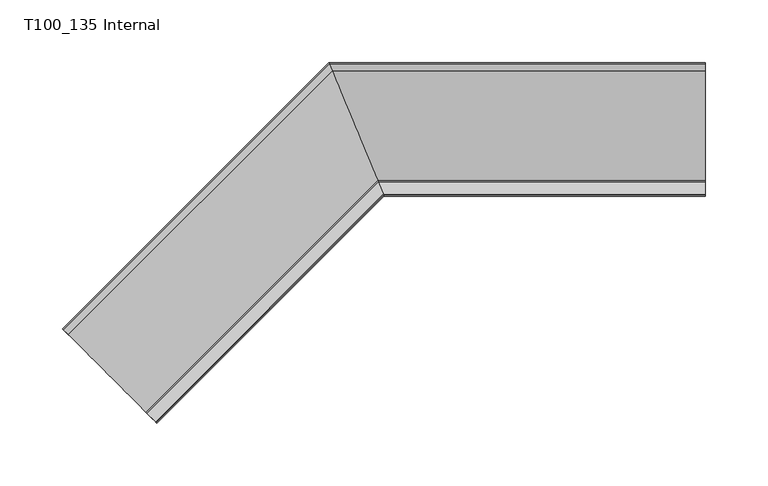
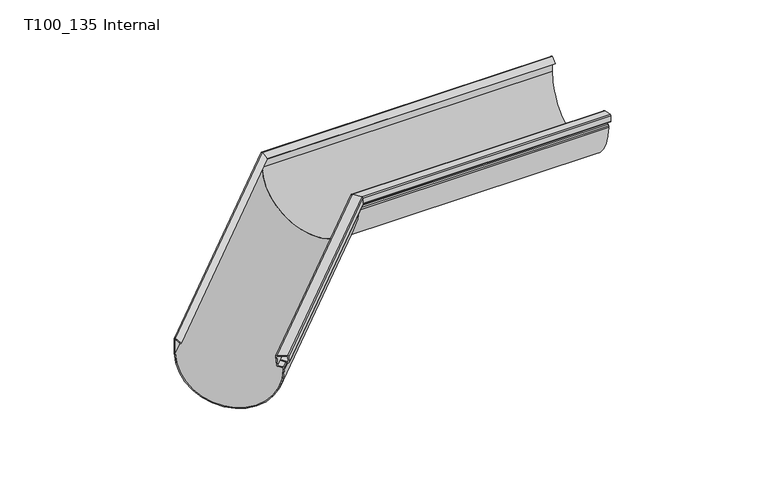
"""IFC4 building model written with IfcOpenShell, lengths in millimetres: proxy geometry, GROVIK_Gutter_Corner : T100_135 Internal."""

from ifc_helpers import new_model, si_unit, frame, origin, place, context, project, spatial, polyline, circle_curve, ellipse_curve, source, transform, mapped, element, save
from ifc_brep_helpers import plane_surface, cylinder_surface, revolved_surface, advanced_brep


def t100_135_internal_282c1e1c(model_context):
    return source(origin(), model_context, "Body", "AdvancedBrep", [
        advanced_brep(
        [(-144.4770669, -279.7870018, -12.9222473), (-145.0827086, -279.1813601, -3.1323306), (-138.0401854, -286.2238834, -1.3761787), (-137.6738294, -286.5902393, -7.2981526), (-142.5942318, -281.669837, -6.0711814), (-142.7047408, -281.5593279, -6.9575084), (-137.8750904, -286.3889784, -8.1618494), (-137.0478865, -287.2161822, -7.0898859), (-137.3989697, -286.865099, -1.4147892), (-138.1650142, -286.0990545, -0.5057502), (-145.1286566, -279.1354121, -2.242232), (-145.7102848, -278.5537839, -3.3141955), (-145.1162126, -279.1478561, -12.9170968), (-144.473425, -279.7906438, -13.8261357), (-140.7849601, -283.4791086, -14.2825008), (-140.7849601, -283.4791086, -16.3578028), (-211.4956383, -212.7684305, -16.3578028), (-211.4956383, -212.7684305, -1.3578028), (-208.1372519, -216.1268168, -5.3430859), (-207.7281844, -216.5358844, -4.6536459), (-211.5512212, -212.7128475, -0.1169778), (-212.1320344, -212.1320344, -0.5), (-212.1320344, -212.1320344, -16.3578028), (-140.148564, -284.1155047, -16.3578028), (-140.148564, -284.1155047, -14.3741339), (-140.7940424, -283.4700263, -13.3779392), (41.8474068, -100.8285771, -13.3779392), (39.689941, -95.6199939, -12.9222473), (42.2255193, -101.7414214, -14.3741339), (42.2255193, -101.7414214, -16.3578028), (0.0585786, 0.0585786, -16.3578028), (0.0585786, 0.0585786, -0.5), (0.3988111, -0.7628152, -0.1169778), (2.6382942, -6.1694058, -4.6536459), (2.398668, -5.5908969, -5.3430859), (0.4313708, -0.8414214, -1.3578028), (0.4313708, -0.8414214, -16.3578028), (41.8527271, -100.8414214, -16.3578028), (41.8527271, -100.8414214, -14.2825008), (39.6920744, -95.6251444, -13.8261357), (39.3155382, -94.7161054, -12.9170968), (38.9675387, -93.8759604, -3.3141955), (39.3082486, -94.6985069, -2.242232), (43.3874559, -104.5465845, -0.5057502), (43.8361943, -105.6299349, -1.4147892), (44.0418541, -106.1264415, -7.0898859), (43.5572893, -104.9565987, -8.1618494), (40.7281456, -98.1264415, -6.9575084), (40.7928803, -98.2827249, -6.0711814), (43.6751853, -105.2412247, -7.2981526), (43.4605789, -104.7231191, -1.3761787), (39.3351643, -94.7634872, -3.1323306)],
        [
            (0, 1),
            (1, 2),
            (2, 3),
            (3, 4),
            (4, 5),
            (5, 6),
            (6, 7, circle_curve(frame((-137.7523026, -286.5117662, -7.1770416), z_axis=(-0.7071067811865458, -0.7071067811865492, 0.0), x_axis=(-0.7071067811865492, 0.7071067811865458, 0.0)), 1.0)),
            (7, 8),
            (8, 9, circle_curve(frame((-138.1033858, -286.160683, -1.5019449), z_axis=(-0.7071067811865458, -0.7071067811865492, 0.0), x_axis=(-0.7071067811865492, 0.7071067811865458, 0.0)), 1.0)),
            (9, 10),
            (10, 11, circle_curve(frame((-145.0058688, -279.2581999, -3.2270397), z_axis=(-0.7071067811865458, -0.7071067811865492, 0.0), x_axis=(-0.7071067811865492, 0.7071067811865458, 0.0)), 1.0)),
            (11, 12),
            (12, 13, circle_curve(frame((-144.473425, -279.7906438, -12.9170968), z_axis=(-0.7071067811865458, -0.7071067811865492, 0.0), x_axis=(-0.7071067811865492, 0.7071067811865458, 0.0)), 0.909039)),
            (13, 14),
            (14, 15),
            (15, 16, circle_curve(frame((-176.1402992, -248.1237695, -16.3578028), z_axis=(0.7071067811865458, 0.7071067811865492, 0.0), x_axis=(-0.7071067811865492, 0.7071067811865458, 0.0)), 50.0)),
            (16, 17),
            (17, 18),
            (18, 19),
            (19, 20),
            (20, 21, circle_curve(frame((-211.778481, -212.4855877, -0.5), z_axis=(-0.7071067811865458, -0.7071067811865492, 0.0), x_axis=(-0.7071067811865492, 0.7071067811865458, 0.0)), 0.5)),
            (21, 22),
            (22, 23, circle_curve(frame((-176.1402992, -248.1237695, -16.3578028), z_axis=(-0.7071067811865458, -0.7071067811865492, 0.0), x_axis=(-0.7071067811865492, 0.7071067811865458, 0.0)), 50.9)),
            (23, 24),
            (24, 25, circle_curve(frame((-140.8556708, -283.4083979, -14.3741339), z_axis=(-0.7071067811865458, -0.7071067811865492, 0.0), x_axis=(-0.7071067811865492, 0.7071067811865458, 0.0)), 1.0)),
            (25, 0),
            (25, 26),
            (26, 27),
            (27, 0),
            (24, 28),
            (28, 26, ellipse_curve(frame((41.8113057, -100.7414214, -14.3741339), z_axis=(-0.9238795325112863, -0.3826834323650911, 0.0), x_axis=(0.38268343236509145, -0.923879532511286, 0.0)), 1.0823922, 1.0)),
            (23, 29),
            (29, 28),
            (22, 30),
            (30, 29, ellipse_curve(frame((21.142049, -50.8414214, -16.3578028), z_axis=(-0.9238795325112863, -0.3826834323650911, 0.0), x_axis=(0.38268343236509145, -0.923879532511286, 0.0)), 55.093763, 50.9)),
            (21, 31),
            (31, 30),
            (20, 32),
            (32, 31, ellipse_curve(frame((0.2656854, -0.4414214, -0.5), z_axis=(-0.9238795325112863, -0.3826834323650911, 0.0), x_axis=(0.38268343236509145, -0.923879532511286, 0.0)), 0.5411961, 0.5)),
            (19, 33),
            (33, 32),
            (18, 34),
            (34, 33),
            (17, 35),
            (35, 34),
            (16, 36),
            (36, 35),
            (15, 37),
            (37, 36, ellipse_curve(frame((21.142049, -50.8414214, -16.3578028), z_axis=(0.9238795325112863, 0.3826834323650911, 0.0), x_axis=(-0.38268343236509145, 0.923879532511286, 0.0)), 54.11961, 50.0)),
            (14, 38),
            (38, 37),
            (13, 39),
            (39, 38),
            (12, 40),
            (40, 39, ellipse_curve(frame((39.6920744, -95.6251444, -12.9170968), z_axis=(-0.9238795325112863, -0.3826834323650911, 0.0), x_axis=(0.38268343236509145, -0.923879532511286, 0.0)), 0.9839367, 0.909039)),
            (11, 41),
            (41, 40),
            (10, 42),
            (42, 41, ellipse_curve(frame((39.3801761, -94.8721551, -3.2270397), z_axis=(-0.9238795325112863, -0.3826834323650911, 0.0), x_axis=(0.38268343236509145, -0.923879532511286, 0.0)), 1.0823922, 1.0)),
            (9, 43),
            (43, 42),
            (8, 44),
            (44, 43, ellipse_curve(frame((43.423557, -104.6337402, -1.5019449), z_axis=(-0.9238795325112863, -0.3826834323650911, 0.0), x_axis=(0.38268343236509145, -0.923879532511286, 0.0)), 1.0823922, 1.0)),
            (7, 45),
            (45, 44),
            (6, 46),
            (46, 45, ellipse_curve(frame((43.6292168, -105.1302468, -7.1770416), z_axis=(-0.9238795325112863, -0.3826834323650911, 0.0), x_axis=(0.38268343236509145, -0.923879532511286, 0.0)), 1.0823922, 1.0)),
            (5, 47),
            (47, 46),
            (4, 48),
            (48, 47),
            (3, 49),
            (49, 48),
            (2, 50),
            (50, 49),
            (1, 51),
            (51, 50),
            (27, 51),
        ],
        [
            plane_surface(frame((-212.1320344, -212.1320344, 0.0), z_axis=(-0.7071067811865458, -0.7071067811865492, 0.0), x_axis=(0.0, 0.0, 1.0))),
            plane_surface(frame((-144.4770669, -279.7870018, -12.9222473), z_axis=(0.06162841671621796, -0.06162841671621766, 0.9961946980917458), x_axis=(0.7071067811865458, 0.7071067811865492, 0.0))),
            cylinder_surface(frame((-140.8556708, -283.4083979, -14.3741339), z_axis=(-0.7071067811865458, -0.7071067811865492, 0.0), x_axis=(-0.7071067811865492, 0.7071067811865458, 0.0)), 1.0),
            plane_surface(frame((-140.148564, -284.1155047, -14.3741339), z_axis=(0.7071067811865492, -0.7071067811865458, 0.0), x_axis=(0.7071067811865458, 0.7071067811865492, 0.0))),
            cylinder_surface(frame((-176.1402992, -248.1237695, -16.3578028), z_axis=(-0.7071067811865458, -0.7071067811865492, 0.0), x_axis=(-0.7071067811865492, 0.7071067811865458, 0.0)), 50.9),
            plane_surface(frame((-212.1320344, -212.1320344, -16.3578028), z_axis=(-0.7071067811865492, 0.7071067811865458, 0.0), x_axis=(0.7071067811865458, 0.7071067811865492, 0.0))),
            cylinder_surface(frame((-211.778481, -212.4855877, -0.5), z_axis=(-0.7071067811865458, -0.7071067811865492, 0.0), x_axis=(-0.7071067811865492, 0.7071067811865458, 0.0)), 0.5),
            plane_surface(frame((-211.5512212, -212.7128475, -0.1169778), z_axis=(0.45451947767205, -0.45451947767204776, 0.766044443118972), x_axis=(0.7071067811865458, 0.7071067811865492, 0.0))),
            plane_surface(frame((-207.7281844, -216.5358844, -4.6536459), z_axis=(0.5416752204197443, -0.5416752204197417, -0.6427876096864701), x_axis=(0.7071067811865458, 0.7071067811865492, 0.0))),
            plane_surface(frame((-208.1372519, -216.1268168, -5.3430859), z_axis=(-0.45451947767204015, 0.454519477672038, -0.7660444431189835), x_axis=(0.7071067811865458, 0.7071067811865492, 0.0))),
            plane_surface(frame((-211.4956383, -212.7684305, -1.3578028), z_axis=(0.7071067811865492, -0.7071067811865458, 0.0), x_axis=(0.7071067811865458, 0.7071067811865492, 0.0))),
            revolved_surface(polyline([(0.43137082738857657, -0.841421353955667, -16.3578028), (-211.49563830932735, -212.7684304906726, -16.3578028)]), (-176.1402992, -248.1237695, -16.3578028), (0.7071067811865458, 0.7071067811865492, 0.0)),
            plane_surface(frame((-140.7849601, -283.4791086, -16.3578028), z_axis=(-0.7071067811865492, 0.7071067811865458, 0.0), x_axis=(0.7071067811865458, 0.7071067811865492, 0.0))),
            plane_surface(frame((-140.7849601, -283.4791086, -14.2825008), z_axis=(-0.06162841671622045, 0.06162841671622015, -0.9961946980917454), x_axis=(0.7071067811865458, 0.7071067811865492, 0.0))),
            cylinder_surface(frame((-144.473425, -279.7906438, -12.9170968), z_axis=(-0.7071067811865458, -0.7071067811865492, 0.0), x_axis=(-0.7071067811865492, 0.7071067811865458, 0.0)), 0.909039),
            plane_surface(frame((-145.1162126, -279.1478561, -12.9170968), z_axis=(-0.7044160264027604, 0.7044160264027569, -0.08715574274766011), x_axis=(0.7071067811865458, 0.7071067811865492, 0.0))),
            cylinder_surface(frame((-145.0058688, -279.2581999, -3.2270397), z_axis=(-0.7071067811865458, -0.7071067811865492, 0.0), x_axis=(-0.7071067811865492, 0.7071067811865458, 0.0)), 1.0),
            plane_surface(frame((-145.1286566, -279.1354121, -2.242232), z_axis=(-0.12278780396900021, 0.12278780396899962, 0.9848077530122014), x_axis=(0.7071067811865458, 0.7071067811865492, 0.0))),
            cylinder_surface(frame((-138.1033858, -286.160683, -1.5019449), z_axis=(-0.7071067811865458, -0.7071067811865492, 0.0), x_axis=(-0.7071067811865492, 0.7071067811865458, 0.0)), 1.0),
            plane_surface(frame((-137.3989697, -286.865099, -1.4147892), z_axis=(0.7044160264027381, -0.7044160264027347, 0.08715574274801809), x_axis=(0.7071067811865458, 0.7071067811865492, 0.0))),
            cylinder_surface(frame((-137.7523026, -286.5117662, -7.1770416), z_axis=(-0.7071067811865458, -0.7071067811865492, 0.0), x_axis=(-0.7071067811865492, 0.7071067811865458, 0.0)), 1.0),
            plane_surface(frame((-137.8750904, -286.3889784, -8.1618494), z_axis=(-0.1227878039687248, 0.1227878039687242, -0.9848077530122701), x_axis=(0.7071067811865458, 0.7071067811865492, 0.0))),
            plane_surface(frame((-142.7047408, -281.5593279, -6.9575084), z_axis=(-0.6963642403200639, 0.6963642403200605, 0.17364817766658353), x_axis=(0.7071067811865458, 0.7071067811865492, 0.0))),
            plane_surface(frame((-142.5942318, -281.669837, -6.0711814), z_axis=(0.12278780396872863, -0.12278780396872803, 0.9848077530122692), x_axis=(0.7071067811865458, 0.7071067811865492, 0.0))),
            plane_surface(frame((-137.6738294, -286.5902393, -7.2981526), z_axis=(-0.7044160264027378, 0.7044160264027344, -0.0871557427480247), x_axis=(0.7071067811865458, 0.7071067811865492, 0.0))),
            plane_surface(frame((-138.0401854, -286.2238834, -1.3761787), z_axis=(0.12278780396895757, -0.12278780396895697, -0.984807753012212), x_axis=(0.7071067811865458, 0.7071067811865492, 0.0))),
            plane_surface(frame((-145.0827086, -279.1813601, -3.1323306), z_axis=(0.7044160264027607, -0.7044160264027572, 0.08715574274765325), x_axis=(0.7071067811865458, 0.7071067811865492, 0.0))),
            plane_surface(frame((44.1309017, -106.3414214, 250.0), z_axis=(0.9238795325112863, 0.3826834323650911, 0.0), x_axis=(0.0, 0.0, -1.0))),
        ],
        [
            (0, [[1, 2, 3, 4, 5, 6, 7, 8, 9, 10, 11, 12, 13, 14, 15, 16, 17, 18, 19, 20, 21, 22, 23, 24, 25, 26]]),
            (1, [[27, 28, 29, -26]]),
            (2, [[30, 31, -27, -25]]),
            (3, [[32, 33, -30, -24]]),
            (4, [[34, 35, -32, -23]]),
            (5, [[36, 37, -34, -22]]),
            (6, [[38, 39, -36, -21]]),
            (7, [[40, 41, -38, -20]]),
            (8, [[42, 43, -40, -19]]),
            (9, [[44, 45, -42, -18]]),
            (10, [[46, 47, -44, -17]]),
            (11, [[48, 49, -46, -16]]),
            (12, [[50, 51, -48, -15]]),
            (13, [[52, 53, -50, -14]]),
            (14, [[54, 55, -52, -13]]),
            (15, [[56, 57, -54, -12]]),
            (16, [[58, 59, -56, -11]]),
            (17, [[60, 61, -58, -10]]),
            (18, [[62, 63, -60, -9]]),
            (19, [[64, 65, -62, -8]]),
            (20, [[66, 67, -64, -7]]),
            (21, [[68, 69, -66, -6]]),
            (22, [[70, 71, -68, -5]]),
            (23, [[72, 73, -70, -4]]),
            (24, [[74, 75, -72, -3]]),
            (25, [[76, 77, -74, -2]]),
            (26, [[-29, 78, -76, -1]]),
            (27, [[-31, -33, -35, -37, -39, -41, -43, -45, -47, -49, -51, -53, -55, -57, -59, -61, -63, -65, -67, -69, -71, -73, -75, -77, -78, -28]]),
        ],
    ),
        advanced_brep(
        [(300.0, -95.6785725, -12.9222473), (300.0, -100.8871557, -13.3779392), (300.0, -101.8, -14.3741339), (300.0, -101.8, -16.3578028), (300.0, 0.0, -16.3578028), (300.0, 0.0, -0.5), (300.0, -0.8213938, -0.1169778), (300.0, -6.2279844, -4.6536459), (300.0, -5.6494755, -5.3430859), (300.0, -0.9, -1.3578028), (300.0, -0.9, -16.3578028), (300.0, -100.9, -16.3578028), (300.0, -100.9, -14.2825008), (300.0, -95.683723, -13.8261357), (300.0, -94.7746841, -12.9170968), (300.0, -93.9345391, -3.3141955), (300.0, -94.7570856, -2.242232), (300.0, -104.6051631, -0.5057502), (300.0, -105.6885136, -1.4147892), (300.0, -106.1850202, -7.0898859), (300.0, -105.0151773, -8.1618494), (300.0, -98.1850202, -6.9575084), (300.0, -98.3413035, -6.0711814), (300.0, -105.2998033, -7.2981526), (300.0, -104.7816977, -1.3761787), (300.0, -94.8220658, -3.1323306), (39.5485197, -95.6785725, -12.9222473), (41.7059855, -100.8871557, -13.3779392), (42.0840979, -101.8, -14.3741339), (42.0840979, -101.8, -16.3578028), (-0.0828427, 0.0, -16.3578028), (-0.0828427, 0.0, -0.5), (0.2573897, -0.8213938, -0.1169778), (2.4968729, -6.2279844, -4.6536459), (2.2572467, -5.6494755, -5.3430859), (0.2899495, -0.9, -1.3578028), (0.2899495, -0.9, -16.3578028), (41.7113057, -100.9, -16.3578028), (41.7113057, -100.9, -14.2825008), (39.5506531, -95.683723, -13.8261357), (39.1741168, -94.7746841, -12.9170968), (38.8261173, -93.9345391, -3.3141955), (39.1668273, -94.7570856, -2.242232), (43.2460345, -104.6051631, -0.5057502), (43.694773, -105.6885136, -1.4147892), (43.9004328, -106.1850202, -7.0898859), (43.415868, -105.0151773, -8.1618494), (40.5867243, -98.1850202, -6.9575084), (40.651459, -98.3413035, -6.0711814), (43.5337639, -105.2998033, -7.2981526), (43.3191576, -104.7816977, -1.3761787), (39.193743, -94.8220658, -3.1323306)],
        [
            (0, 1),
            (1, 2, circle_curve(frame((300.0, -100.8, -14.3741339), z_axis=(1.0, 0.0, 0.0), x_axis=(0.0, 1.0, 0.0)), 1.0)),
            (2, 3),
            (3, 4, circle_curve(frame((300.0, -50.9, -16.3578028), z_axis=(1.0, 0.0, 0.0), x_axis=(0.0, 1.0, 0.0)), 50.9)),
            (4, 5),
            (5, 6, circle_curve(frame((300.0, -0.5, -0.5), z_axis=(1.0, 0.0, 0.0), x_axis=(0.0, 1.0, 0.0)), 0.5)),
            (6, 7),
            (7, 8),
            (8, 9),
            (9, 10),
            (10, 11, circle_curve(frame((300.0, -50.9, -16.3578028), z_axis=(-1.0, 0.0, 0.0), x_axis=(0.0, 1.0, 0.0)), 50.0)),
            (11, 12),
            (12, 13),
            (13, 14, circle_curve(frame((300.0, -95.683723, -12.9170968), z_axis=(1.0, 0.0, 0.0), x_axis=(0.0, 1.0, 0.0)), 0.909039)),
            (14, 15),
            (15, 16, circle_curve(frame((300.0, -94.9307338, -3.2270397), z_axis=(1.0, 0.0, 0.0), x_axis=(0.0, 1.0, 0.0)), 1.0)),
            (16, 17),
            (17, 18, circle_curve(frame((300.0, -104.6923189, -1.5019449), z_axis=(1.0, 0.0, 0.0), x_axis=(0.0, 1.0, 0.0)), 1.0)),
            (18, 19),
            (19, 20, circle_curve(frame((300.0, -105.1888255, -7.1770416), z_axis=(1.0, 0.0, 0.0), x_axis=(0.0, 1.0, 0.0)), 1.0)),
            (20, 21),
            (21, 22),
            (22, 23),
            (23, 24),
            (24, 25),
            (25, 0),
            (0, 26),
            (26, 27),
            (27, 1),
            (27, 28, ellipse_curve(frame((41.6698844, -100.8, -14.3741339), z_axis=(0.9238795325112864, 0.3826834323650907, 0.0), x_axis=(0.3826834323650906, -0.9238795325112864, 0.0)), 1.0823922, 1.0)),
            (28, 2),
            (28, 29),
            (29, 3),
            (29, 30, ellipse_curve(frame((21.0006276, -50.9, -16.3578028), z_axis=(0.9238795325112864, 0.3826834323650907, 0.0), x_axis=(0.3826834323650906, -0.9238795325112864, 0.0)), 55.093763, 50.9)),
            (30, 4),
            (30, 31),
            (31, 5),
            (31, 32, ellipse_curve(frame((0.1242641, -0.5, -0.5), z_axis=(0.9238795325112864, 0.3826834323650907, 0.0), x_axis=(0.3826834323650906, -0.9238795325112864, 0.0)), 0.5411961, 0.5)),
            (32, 6),
            (32, 33),
            (33, 7),
            (33, 34),
            (34, 8),
            (34, 35),
            (35, 9),
            (35, 36),
            (36, 10),
            (36, 37, ellipse_curve(frame((21.0006276, -50.9, -16.3578028), z_axis=(-0.9238795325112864, -0.3826834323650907, 0.0), x_axis=(-0.3826834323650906, 0.9238795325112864, 0.0)), 54.11961, 50.0)),
            (37, 11),
            (37, 38),
            (38, 12),
            (38, 39),
            (39, 13),
            (39, 40, ellipse_curve(frame((39.5506531, -95.683723, -12.9170968), z_axis=(0.9238795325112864, 0.3826834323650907, 0.0), x_axis=(0.3826834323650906, -0.9238795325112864, 0.0)), 0.9839367, 0.909039)),
            (40, 14),
            (40, 41),
            (41, 15),
            (41, 42, ellipse_curve(frame((39.2387547, -94.9307338, -3.2270397), z_axis=(0.9238795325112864, 0.3826834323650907, 0.0), x_axis=(0.3826834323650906, -0.9238795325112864, 0.0)), 1.0823922, 1.0)),
            (42, 16),
            (42, 43),
            (43, 17),
            (43, 44, ellipse_curve(frame((43.2821356, -104.6923189, -1.5019449), z_axis=(0.9238795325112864, 0.3826834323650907, 0.0), x_axis=(0.3826834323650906, -0.9238795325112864, 0.0)), 1.0823922, 1.0)),
            (44, 18),
            (44, 45),
            (45, 19),
            (45, 46, ellipse_curve(frame((43.4877954, -105.1888255, -7.1770416), z_axis=(0.9238795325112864, 0.3826834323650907, 0.0), x_axis=(0.3826834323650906, -0.9238795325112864, 0.0)), 1.0823922, 1.0)),
            (46, 20),
            (46, 47),
            (47, 21),
            (47, 48),
            (48, 22),
            (48, 49),
            (49, 23),
            (49, 50),
            (50, 24),
            (50, 51),
            (51, 25),
            (51, 26),
        ],
        [
            plane_surface(frame((300.0, 0.0, 0.0), z_axis=(1.0, 0.0, 0.0), x_axis=(0.0, 0.0, 1.0))),
            plane_surface(frame((300.0, -95.6785725, -12.9222473), z_axis=(0.0, -0.087155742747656, 0.9961946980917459), x_axis=(-1.0, 0.0, 0.0))),
            cylinder_surface(frame((300.0, -100.8, -14.3741339), z_axis=(1.0, 0.0, 0.0), x_axis=(0.0, 1.0, 0.0)), 1.0),
            plane_surface(frame((300.0, -101.8, -14.3741339), z_axis=(0.0, -1.0, 0.0), x_axis=(-1.0, 0.0, 0.0))),
            cylinder_surface(frame((300.0, -50.9, -16.3578028), z_axis=(1.0, 0.0, 0.0), x_axis=(0.0, 1.0, 0.0)), 50.9),
            plane_surface(frame((300.0, 0.0, -16.3578028), z_axis=(0.0, 1.0, 0.0), x_axis=(-1.0, 0.0, 0.0))),
            cylinder_surface(frame((300.0, -0.5, -0.5), z_axis=(1.0, 0.0, 0.0), x_axis=(0.0, 1.0, 0.0)), 0.5),
            plane_surface(frame((300.0, -0.8213938, -0.1169778), z_axis=(0.0, -0.6427876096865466, 0.7660444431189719), x_axis=(-1.0, 0.0, 0.0))),
            plane_surface(frame((300.0, -6.2279844, -4.6536459), z_axis=(0.0, -0.7660444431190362, -0.6427876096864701), x_axis=(-1.0, 0.0, 0.0))),
            plane_surface(frame((300.0, -5.6494755, -5.3430859), z_axis=(0.0, 0.6427876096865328, -0.7660444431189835), x_axis=(-1.0, 0.0, 0.0))),
            plane_surface(frame((300.0, -0.9, -1.3578028), z_axis=(0.0, -1.0, 0.0), x_axis=(-1.0, 0.0, 0.0))),
            revolved_surface(polyline([(0.28994948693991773, -0.8999999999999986, -16.3578028), (300.0, -0.8999999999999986, -16.3578028)]), (300.0, -50.9, -16.3578028), (-1.0, 0.0, 0.0)),
            plane_surface(frame((300.0, -100.9, -16.3578028), z_axis=(0.0, 1.0, 0.0), x_axis=(-1.0, 0.0, 0.0))),
            plane_surface(frame((300.0, -100.9, -14.2825008), z_axis=(0.0, 0.08715574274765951, -0.9961946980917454), x_axis=(-1.0, 0.0, 0.0))),
            cylinder_surface(frame((300.0, -95.683723, -12.9170968), z_axis=(1.0, 0.0, 0.0), x_axis=(0.0, 1.0, 0.0)), 0.909039),
            plane_surface(frame((300.0, -94.7746841, -12.9170968), z_axis=(0.0, 0.9961946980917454, -0.08715574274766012), x_axis=(-1.0, 0.0, 0.0))),
            cylinder_surface(frame((300.0, -94.9307338, -3.2270397), z_axis=(1.0, 0.0, 0.0), x_axis=(0.0, 1.0, 0.0)), 1.0),
            plane_surface(frame((300.0, -94.7570856, -2.242232), z_axis=(0.0, 0.17364817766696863, 0.9848077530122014), x_axis=(-1.0, 0.0, 0.0))),
            cylinder_surface(frame((300.0, -104.6923189, -1.5019449), z_axis=(1.0, 0.0, 0.0), x_axis=(0.0, 1.0, 0.0)), 1.0),
            plane_surface(frame((300.0, -105.6885136, -1.4147892), z_axis=(0.0, -0.9961946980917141, 0.08715574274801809), x_axis=(-1.0, 0.0, 0.0))),
            cylinder_surface(frame((300.0, -105.1888255, -7.1770416), z_axis=(1.0, 0.0, 0.0), x_axis=(0.0, 1.0, 0.0)), 1.0),
            plane_surface(frame((300.0, -105.0151773, -8.1618494), z_axis=(0.0, 0.17364817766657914, -0.9848077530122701), x_axis=(-1.0, 0.0, 0.0))),
            plane_surface(frame((300.0, -98.1850202, -6.9575084), z_axis=(0.0, 0.9848077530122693, 0.17364817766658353), x_axis=(-1.0, 0.0, 0.0))),
            plane_surface(frame((300.0, -98.3413035, -6.0711814), z_axis=(0.0, -0.17364817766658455, 0.9848077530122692), x_axis=(-1.0, 0.0, 0.0))),
            plane_surface(frame((300.0, -105.2998033, -7.2981526), z_axis=(0.0, 0.9961946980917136, -0.0871557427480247), x_axis=(-1.0, 0.0, 0.0))),
            plane_surface(frame((300.0, -104.7816977, -1.3761787), z_axis=(0.0, -0.17364817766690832, -0.984807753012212), x_axis=(-1.0, 0.0, 0.0))),
            plane_surface(frame((300.0, -94.8220658, -3.1323306), z_axis=(0.0, -0.996194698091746, 0.08715574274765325), x_axis=(-1.0, 0.0, 0.0))),
            plane_surface(frame((43.9894803, -106.4, 250.0), z_axis=(-0.9238795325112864, -0.3826834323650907, 0.0), x_axis=(0.0, 0.0, -1.0))),
        ],
        [
            (0, [[1, 2, 3, 4, 5, 6, 7, 8, 9, 10, 11, 12, 13, 14, 15, 16, 17, 18, 19, 20, 21, 22, 23, 24, 25, 26]]),
            (1, [[-1, 27, 28, 29]]),
            (2, [[-2, -29, 30, 31]]),
            (3, [[-3, -31, 32, 33]]),
            (4, [[-4, -33, 34, 35]]),
            (5, [[-5, -35, 36, 37]]),
            (6, [[-6, -37, 38, 39]]),
            (7, [[-7, -39, 40, 41]]),
            (8, [[-8, -41, 42, 43]]),
            (9, [[-9, -43, 44, 45]]),
            (10, [[-10, -45, 46, 47]]),
            (11, [[-11, -47, 48, 49]]),
            (12, [[-12, -49, 50, 51]]),
            (13, [[-13, -51, 52, 53]]),
            (14, [[-14, -53, 54, 55]]),
            (15, [[-15, -55, 56, 57]]),
            (16, [[-16, -57, 58, 59]]),
            (17, [[-17, -59, 60, 61]]),
            (18, [[-18, -61, 62, 63]]),
            (19, [[-19, -63, 64, 65]]),
            (20, [[-20, -65, 66, 67]]),
            (21, [[-21, -67, 68, 69]]),
            (22, [[-22, -69, 70, 71]]),
            (23, [[-23, -71, 72, 73]]),
            (24, [[-24, -73, 74, 75]]),
            (25, [[-25, -75, 76, 77]]),
            (26, [[-26, -77, 78, -27]]),
            (27, [[-28, -78, -76, -74, -72, -70, -68, -66, -64, -62, -60, -58, -56, -54, -52, -50, -48, -46, -44, -42, -40, -38, -36, -34, -32, -30]]),
        ],
    ),
    ])


if __name__ == "__main__":
    model = new_model("IFC4")
    model_context = context("Model", 3, world=origin())
    ifc_project = project(units=[si_unit("LENGTHUNIT", "METRE", prefix="MILLI")], contexts=[model_context])
    site = spatial("IfcSite", under=ifc_project)
    building = spatial("IfcBuilding", under=site)
    placement = place(None, origin())
    t100_135_internal_shape = t100_135_internal_282c1e1c(model_context)
    element("IfcBuildingElementProxy", 1, Name="GROVIK_Gutter_Corner : T100_135 Internal", ObjectType="GROVIK_Gutter_Corner : T100_135 Internal", at=placement, inside=building, context=model_context, shape_type="MappedRepresentation", body=[
        mapped(t100_135_internal_shape, transform((0.0, 0.0, 0.0), x_axis=(1.0, 0.0, 0.0), y_axis=(0.0, 1.0, 0.0), z_axis=(0.0, 0.0, 1.0))),
    ])
    save(model, "model.ifc")
